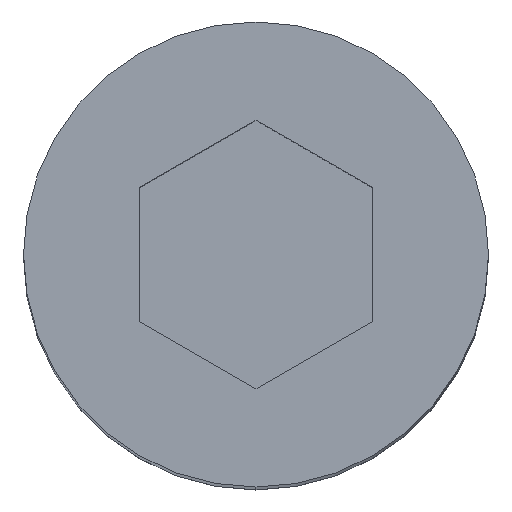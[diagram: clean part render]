
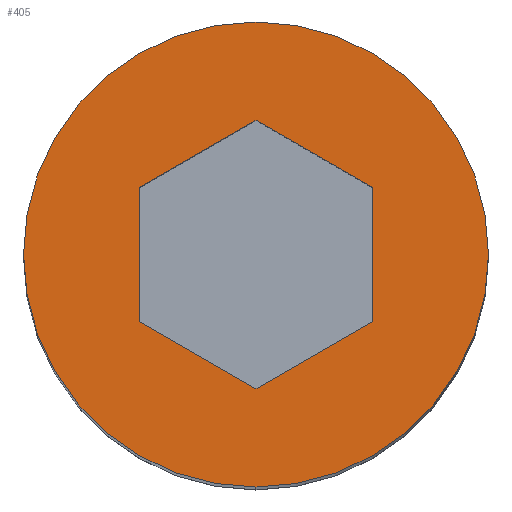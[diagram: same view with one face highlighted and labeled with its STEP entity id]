
A CAD part, top view. The second image highlights one B-rep face of the part: STEP entity #405.
In plain terms, the highlighted planar face has unit normal (0, 0, 1).
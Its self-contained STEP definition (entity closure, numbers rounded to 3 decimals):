
#12 = VECTOR ( 'NONE', #371, 1000. ) ;
#17 = CARTESIAN_POINT ( 'NONE',  ( -1.5, 0.866, 25. ) ) ;
#49 = VECTOR ( 'NONE', #159, 1000. ) ;
#50 = LINE ( 'NONE', #81, #49 ) ;
#52 = LINE ( 'NONE', #17, #458 ) ;
#57 = ORIENTED_EDGE ( 'NONE', *, *, #336, .F. ) ;
#58 = LINE ( 'NONE', #217, #12 ) ;
#67 = EDGE_CURVE ( 'NONE', #407, #295, #221, .T. ) ;
#76 = CARTESIAN_POINT ( 'NONE',  ( 0., -3., 25. ) ) ;
#81 = CARTESIAN_POINT ( 'NONE',  ( -1.5, -0.866, 25. ) ) ;
#84 = DIRECTION ( 'NONE',  ( 0., 0., 1. ) ) ;
#91 = VERTEX_POINT ( 'NONE', #271 ) ;
#92 = LINE ( 'NONE', #253, #473 ) ;
#97 = CARTESIAN_POINT ( 'NONE',  ( 0., 3., 25. ) ) ;
#101 = VERTEX_POINT ( 'NONE', #180 ) ;
#128 = CARTESIAN_POINT ( 'NONE',  ( 0., 0., 25. ) ) ;
#132 = DIRECTION ( 'NONE',  ( 0., -1., 0. ) ) ;
#137 = ORIENTED_EDGE ( 'NONE', *, *, #362, .T. ) ;
#138 = PLANE ( 'NONE',  #260 ) ;
#147 = DIRECTION ( 'NONE',  ( 0., 1., 0. ) ) ;
#148 = CARTESIAN_POINT ( 'NONE',  ( 1.5, 0.866, 25. ) ) ;
#159 = DIRECTION ( 'NONE',  ( 0.866, -0.5, 0. ) ) ;
#167 = EDGE_CURVE ( 'NONE', #441, #91, #50, .T. ) ;
#176 = FACE_BOUND ( 'NONE', #278, .T. ) ;
#179 = LINE ( 'NONE', #148, #374 ) ;
#180 = CARTESIAN_POINT ( 'NONE',  ( 0., 1.732, 25. ) ) ;
#183 = EDGE_CURVE ( 'NONE', #218, #351, #334, .T. ) ;
#199 = CARTESIAN_POINT ( 'NONE',  ( 0., 0., 25. ) ) ;
#205 = AXIS2_PLACEMENT_3D ( 'NONE', #199, #84, #401 ) ;
#212 = DIRECTION ( 'NONE',  ( 0., 1., 0. ) ) ;
#217 = CARTESIAN_POINT ( 'NONE',  ( 0., -1.732, 25. ) ) ;
#218 = VERTEX_POINT ( 'NONE', #76 ) ;
#220 = CIRCLE ( 'NONE', #450, 3. ) ;
#221 = LINE ( 'NONE', #264, #421 ) ;
#236 = CARTESIAN_POINT ( 'NONE',  ( 1.5, 0.866, 25. ) ) ;
#244 = CARTESIAN_POINT ( 'NONE',  ( 1.5, -0.866, 25. ) ) ;
#248 = CARTESIAN_POINT ( 'NONE',  ( 0., 0., 25. ) ) ;
#252 = EDGE_LOOP ( 'NONE', ( #137, #254 ) ) ;
#253 = CARTESIAN_POINT ( 'NONE',  ( 0., 1.732, 25. ) ) ;
#254 = ORIENTED_EDGE ( 'NONE', *, *, #183, .T. ) ;
#260 = AXIS2_PLACEMENT_3D ( 'NONE', #248, #483, #327 ) ;
#264 = CARTESIAN_POINT ( 'NONE',  ( 1.5, -0.866, 25. ) ) ;
#271 = CARTESIAN_POINT ( 'NONE',  ( 0., -1.732, 25. ) ) ;
#278 = EDGE_LOOP ( 'NONE', ( #328, #481, #290, #484, #438, #57 ) ) ;
#289 = DIRECTION ( 'NONE',  ( 0., 0., 1. ) ) ;
#290 = ORIENTED_EDGE ( 'NONE', *, *, #395, .F. ) ;
#295 = VERTEX_POINT ( 'NONE', #236 ) ;
#327 = DIRECTION ( 'NONE',  ( 0., 1., 0. ) ) ;
#328 = ORIENTED_EDGE ( 'NONE', *, *, #474, .F. ) ;
#333 = FACE_OUTER_BOUND ( 'NONE', #252, .T. ) ;
#334 = CIRCLE ( 'NONE', #205, 3. ) ;
#336 = EDGE_CURVE ( 'NONE', #101, #406, #92, .T. ) ;
#341 = EDGE_CURVE ( 'NONE', #406, #441, #52, .T. ) ;
#351 = VERTEX_POINT ( 'NONE', #97 ) ;
#362 = EDGE_CURVE ( 'NONE', #351, #218, #220, .T. ) ;
#371 = DIRECTION ( 'NONE',  ( 0.866, 0.5, 0. ) ) ;
#374 = VECTOR ( 'NONE', #491, 1000. ) ;
#395 = EDGE_CURVE ( 'NONE', #91, #407, #58, .T. ) ;
#401 = DIRECTION ( 'NONE',  ( 0., 1., 0. ) ) ;
#405 = ADVANCED_FACE ( 'NONE', ( #176, #333 ), #138, .T. ) ;
#406 = VERTEX_POINT ( 'NONE', #448 ) ;
#407 = VERTEX_POINT ( 'NONE', #244 ) ;
#415 = CARTESIAN_POINT ( 'NONE',  ( -1.5, -0.866, 25. ) ) ;
#421 = VECTOR ( 'NONE', #147, 1000. ) ;
#438 = ORIENTED_EDGE ( 'NONE', *, *, #341, .F. ) ;
#441 = VERTEX_POINT ( 'NONE', #415 ) ;
#448 = CARTESIAN_POINT ( 'NONE',  ( -1.5, 0.866, 25. ) ) ;
#450 = AXIS2_PLACEMENT_3D ( 'NONE', #128, #289, #212 ) ;
#458 = VECTOR ( 'NONE', #132, 1000. ) ;
#473 = VECTOR ( 'NONE', #480, 1000. ) ;
#474 = EDGE_CURVE ( 'NONE', #295, #101, #179, .T. ) ;
#480 = DIRECTION ( 'NONE',  ( -0.866, -0.5, 0. ) ) ;
#481 = ORIENTED_EDGE ( 'NONE', *, *, #67, .F. ) ;
#483 = DIRECTION ( 'NONE',  ( 0., 0., 1. ) ) ;
#484 = ORIENTED_EDGE ( 'NONE', *, *, #167, .F. ) ;
#491 = DIRECTION ( 'NONE',  ( -0.866, 0.5, 0. ) ) ;
